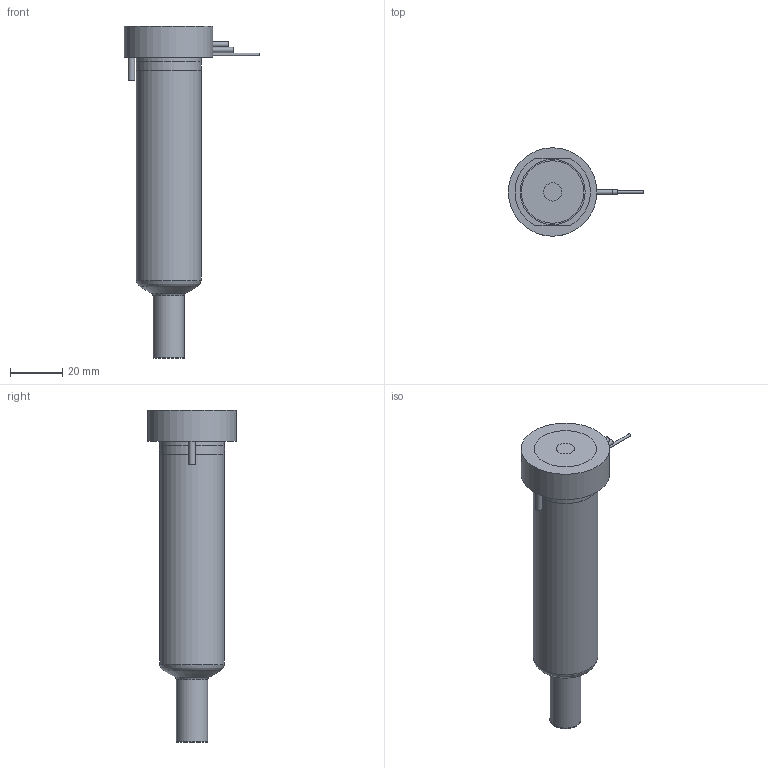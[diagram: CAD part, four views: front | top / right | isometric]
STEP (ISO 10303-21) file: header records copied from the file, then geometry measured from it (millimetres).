
FILE_DESCRIPTION(/* description */ (''),/* implementation_level */ '2;1');
FILE_NAME(/* name */ 'MXYCN16095N3U_200C_a',/* time_stamp */ '2016-02-29T09:28:11+13:00',/* author */ (''),/* organization */ (''),/* preprocessor_version */ 'ST-DEVELOPER v9',/* originating_system */ 'UGS - NX 4.0',/* authorisation */ '');
FILE_SCHEMA (('CONFIG_CONTROL_DESIGN'));
Length unit declared in the file: millimetre
Products named in the file (1): mattB1369xhf
Bounding box: 51.95 x 34 x 127.52 mm (x, y, z)
Volume: 96341.5 mm3; surface area: 21274.1 mm2
Topology: 2 solids, 2 shells, 71 faces, 156 edges, 102 vertices
Faces by surface type: plane 31, cylinder 26, torus 7, cone 5, bspline 1, sphere 1
Full cylindrical faces by diameter (mm): 1 x2, 1.5 x1, 2 x2, 2.5 x1, 5 x1, 7 x1, 11.61 x1, 11.995 x2, 14.8 x1, 20.8 x1, 24.9 x1, 25 x2, 34 x1
Entity records: 2121 total; most frequent: CARTESIAN_POINT 614, DIRECTION 314, ORIENTED_EDGE 234, AXIS2_PLACEMENT_3D 141, EDGE_CURVE 117, EDGE_LOOP 114, VERTEX_POINT 91, ADVANCED_FACE 71
